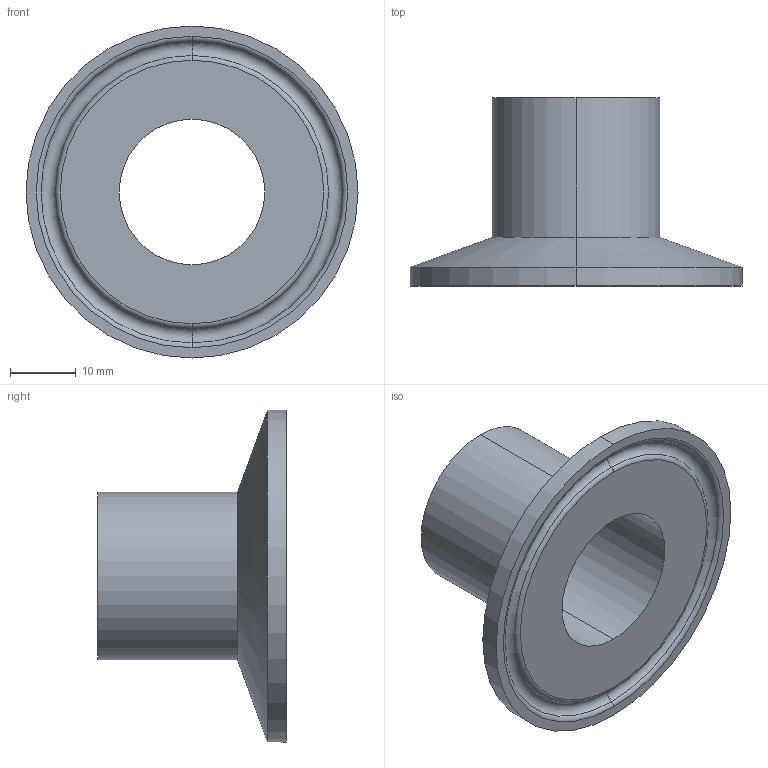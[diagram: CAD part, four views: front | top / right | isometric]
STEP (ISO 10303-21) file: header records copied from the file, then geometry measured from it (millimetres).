
FILE_DESCRIPTION (( 'STEP AP203' ), '1' );
FILE_NAME ('EG14AM71.0.STEP', '2018-05-01T13:03:03', ( 'vneprd' ), ( 'Microsoft' ), 'SwSTEP 2.0', 'SolidWorks 2014', '' );
FILE_SCHEMA (( 'CONFIG_CONTROL_DESIGN' ));
Length unit declared in the file: inch
Products named in the file (1): EG14AM71.0
Bounding box: 50.39 x 28.57 x 50.39 mm (x, y, z)
Volume: 10439.7 mm3; surface area: 7574.6 mm2
Topology: 1 solids, 1 shells, 17 faces, 34 edges, 20 vertices
Faces by surface type: cylinder 6, torus 6, plane 3, cone 2
Entity records: 533 total; most frequent: DIRECTION 96, CARTESIAN_POINT 72, ORIENTED_EDGE 68, AXIS2_PLACEMENT_3D 44, EDGE_CURVE 34, CIRCLE 26, VERTEX_POINT 20, EDGE_LOOP 20
